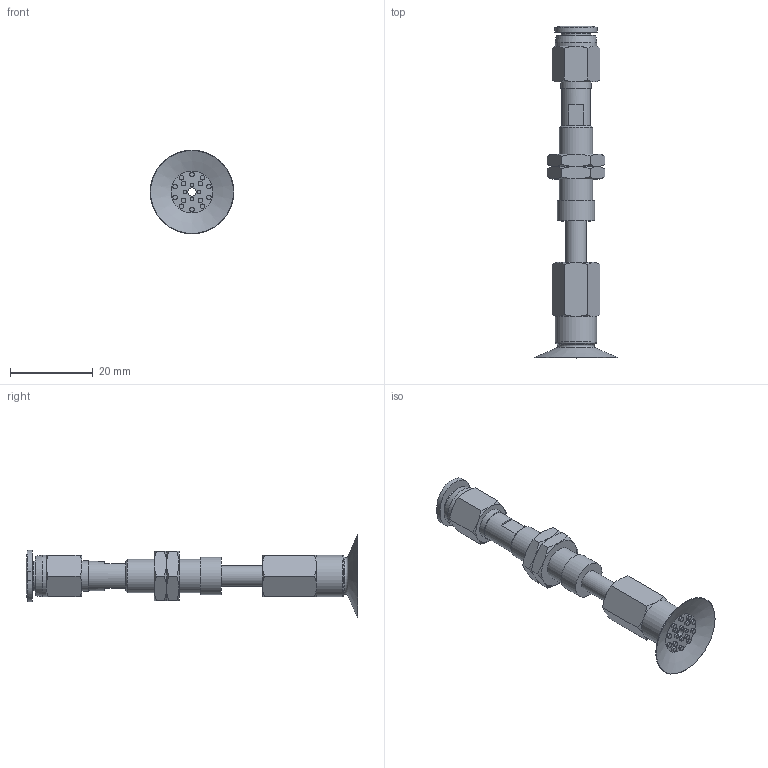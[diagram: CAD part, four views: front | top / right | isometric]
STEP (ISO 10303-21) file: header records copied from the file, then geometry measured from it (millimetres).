
FILE_DESCRIPTION(('STEP AP203'),'1');
FILE_NAME('-O.stp','2025-08-26T08:56:22',(' '),(' '),'Spatial InterOp 3D',' ',' ');
FILE_SCHEMA(('CONFIG_CONTROL_DESIGN'));
Length unit declared in the file: millimetre
Products named in the file (7): BNABPATS-20A-10-※-O; ADAPTER; NAPATS-10A-10--M; NAPATS-20A-10--F; Nut-10A-S; BPAG-20A-※_3D; PC-C_06-M5
Assembly tree (7 placements, depth 2):
  BNABPATS-20A-10-※-O
    ADAPTER
    NAPATS-10A-10--M
    NAPATS-20A-10--F
    Nut-10A-S  x2
    BPAG-20A-※_3D
    PC-C_06-M5
Bounding box: 20.19 x 79.98 x 20.19 mm (x, y, z)
Volume: 3821.4 mm3; surface area: 5768.7 mm2
Topology: 6 solids, 9 shells, 200 faces, 392 edges, 240 vertices
Faces by surface type: plane 76, cone 62, cylinder 43, torus 12, bspline 4, revolution 3
Full cylindrical faces by diameter (mm): 0.9 x4, 1.1 x14, 2 x3, 4 x4, 4.134 x1, 5 x3, 6 x2, 7 x2, 7.188 x2, 7.4 x1, 8 x1, 8.2 x1, 9 x1, 10 x2
Entity records: 4876 total; most frequent: CARTESIAN_POINT 1290, DIRECTION 695, ORIENTED_EDGE 530, AXIS2_PLACEMENT_3D 326, EDGE_LOOP 286, EDGE_CURVE 267, VERTEX_POINT 201, FACE_OUTER_BOUND 169
